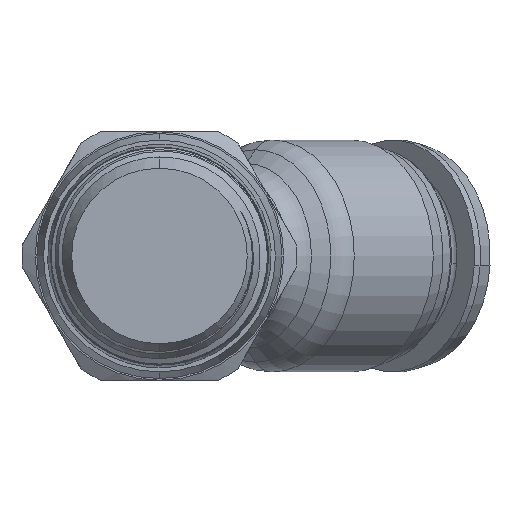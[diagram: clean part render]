
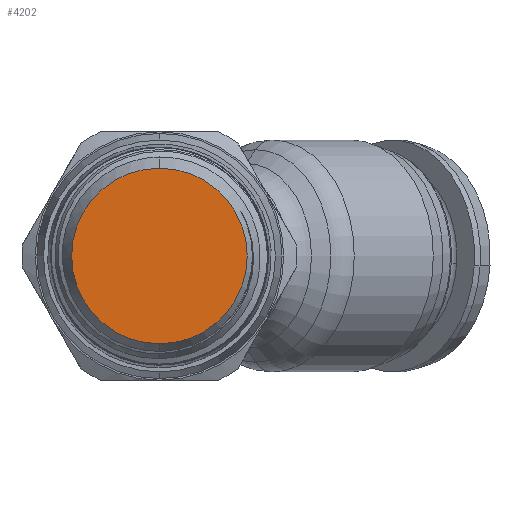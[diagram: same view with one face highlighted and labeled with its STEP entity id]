
A CAD part, front view. The second image highlights one B-rep face of the part: STEP entity #4202.
In plain terms, the highlighted planar face has unit normal (0, -1, 0).
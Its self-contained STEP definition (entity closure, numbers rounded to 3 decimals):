
#70 = VERTEX_POINT ( 'NONE', #4489 ) ;
#578 = DIRECTION ( 'NONE',  ( 0., 0., -1. ) ) ;
#1726 = ORIENTED_EDGE ( 'NONE', *, *, #2621, .T. ) ;
#2560 = CIRCLE ( 'NONE', #14418, 5.3 ) ;
#2621 = EDGE_CURVE ( 'Defeature completata1_181+Defeature completata1_183+Defeature completata1_183+Defeature completata1_183', #5649, #70, #2560, .T. ) ;
#3427 = ORIENTED_EDGE ( 'NONE', *, *, #13061, .T. ) ;
#3731 = AXIS2_PLACEMENT_3D ( 'NONE', #3984, #5253, #13772 ) ;
#3984 = CARTESIAN_POINT ( 'NONE',  ( 0., 0., 0. ) ) ;
#4038 = PLANE ( 'NONE',  #3731 ) ;
#4142 = CARTESIAN_POINT ( 'NONE',  ( 0., 0., 0. ) ) ;
#4202 = ADVANCED_FACE ( 'Defeature completata1_181', ( #11309 ), #4038, .T. ) ;
#4489 = CARTESIAN_POINT ( 'NONE',  ( 0., 0., 5.3 ) ) ;
#5253 = DIRECTION ( 'NONE',  ( 0., -1., 0. ) ) ;
#5363 = DIRECTION ( 'NONE',  ( 0., 0., -1. ) ) ;
#5649 = VERTEX_POINT ( 'NONE', #7264 ) ;
#7264 = CARTESIAN_POINT ( 'NONE',  ( 0., 0., -5.3 ) ) ;
#7865 = EDGE_LOOP ( 'NONE', ( #3427, #1726 ) ) ;
#7947 = DIRECTION ( 'NONE',  ( 0., -1., 0. ) ) ;
#10428 = CIRCLE ( 'NONE', #11384, 5.3 ) ;
#11309 = FACE_OUTER_BOUND ( 'NONE', #7865, .T. ) ;
#11384 = AXIS2_PLACEMENT_3D ( 'NONE', #15141, #7947, #578 ) ;
#12667 = DIRECTION ( 'NONE',  ( 0., -1., 0. ) ) ;
#13061 = EDGE_CURVE ( 'Defeature completata1_181+Defeature completata1_183+Defeature completata1_183+Defeature completata1_183', #70, #5649, #10428, .T. ) ;
#13772 = DIRECTION ( 'NONE',  ( 0., 0., -1. ) ) ;
#14418 = AXIS2_PLACEMENT_3D ( 'NONE', #4142, #12667, #5363 ) ;
#15141 = CARTESIAN_POINT ( 'NONE',  ( 0., 0., 0. ) ) ;
